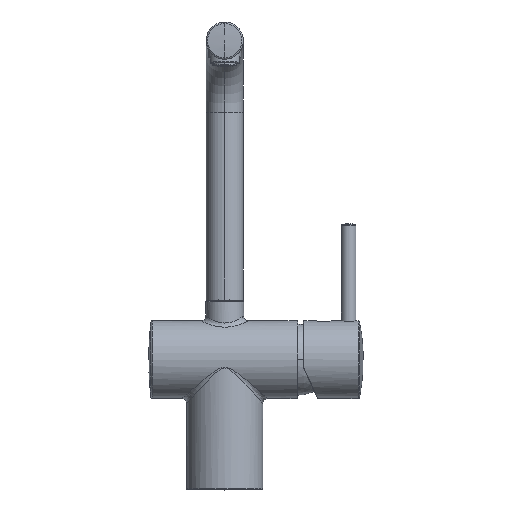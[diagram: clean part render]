
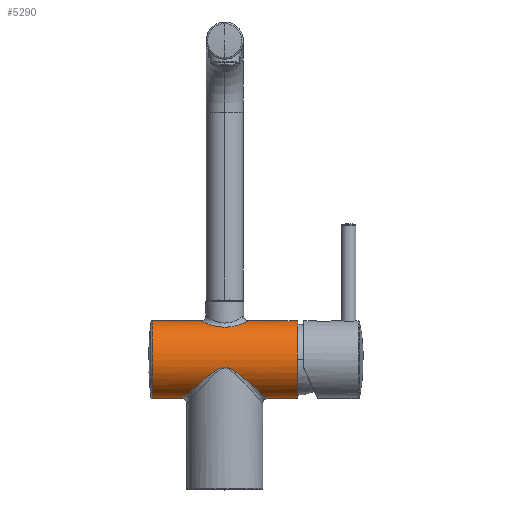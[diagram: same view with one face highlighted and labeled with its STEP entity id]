
A CAD part, top view. The second image highlights one B-rep face of the part: STEP entity #5290.
In plain terms, the highlighted cylindrical face has radius 24 mm (diameter 48 mm), a partial arc.
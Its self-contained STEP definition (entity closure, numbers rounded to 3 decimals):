
#144=DIRECTION('',(-1.,0.,0.));
#145=VECTOR('',#144,30.);
#146=CARTESIAN_POINT('',(44.7,104.,0.));
#147=LINE('',#146,#145);
#148=CARTESIAN_POINT('',(-14.7,104.,0.));
#168=CARTESIAN_POINT('',(14.7,104.,0.));
#170=DIRECTION('',(-1.,0.,0.));
#171=VECTOR('',#170,29.966);
#172=CARTESIAN_POINT('',(-14.7,104.,0.));
#173=LINE('',#172,#171);
#179=DIRECTION('',(-1.,0.,0.));
#180=VECTOR('',#179,18.166);
#181=CARTESIAN_POINT('',(-26.5,56.,0.));
#182=LINE('',#181,#180);
#183=CARTESIAN_POINT('',(26.5,56.,0.));
#230=CARTESIAN_POINT('',(-26.5,56.,0.));
#232=DIRECTION('',(-1.,0.,0.));
#233=VECTOR('',#232,18.2);
#234=CARTESIAN_POINT('',(44.7,56.,0.));
#235=LINE('',#234,#233);
#246=CARTESIAN_POINT('',(44.7,80.,0.));
#247=DIRECTION('',(-1.,0.,0.));
#248=DIRECTION('',(0.,-1.,0.));
#249=AXIS2_PLACEMENT_3D('',#246,#247,#248);
#251=CARTESIAN_POINT('',(-26.5,56.,0.));
#252=CARTESIAN_POINT('',(-26.5,56.,0.964));
#253=CARTESIAN_POINT('',(-26.368,56.115,2.918));
#254=CARTESIAN_POINT('',(-25.729,56.673,5.918));
#255=CARTESIAN_POINT('',(-24.644,57.617,8.827));
#256=CARTESIAN_POINT('',(-23.284,58.799,11.346));
#257=CARTESIAN_POINT('',(-21.862,60.031,13.374));
#258=CARTESIAN_POINT('',(-20.41,61.285,15.071));
#259=CARTESIAN_POINT('',(-18.878,62.602,16.57));
#260=CARTESIAN_POINT('',(-17.311,63.942,17.865));
#261=CARTESIAN_POINT('',(-15.795,65.228,18.937));
#262=CARTESIAN_POINT('',(-14.366,66.43,19.811));
#263=CARTESIAN_POINT('',(-13.059,67.517,20.51));
#264=CARTESIAN_POINT('',(-11.889,68.477,21.061));
#265=CARTESIAN_POINT('',(-10.825,69.338,21.508));
#266=CARTESIAN_POINT('',(-9.814,70.142,21.888));
#267=CARTESIAN_POINT('',(-8.801,70.93,22.226));
#268=CARTESIAN_POINT('',(-7.754,71.72,22.532));
#269=CARTESIAN_POINT('',(-6.677,72.501,22.803));
#270=CARTESIAN_POINT('',(-5.575,73.251,23.036));
#271=CARTESIAN_POINT('',(-4.449,73.952,23.229));
#272=CARTESIAN_POINT('',(-3.265,74.589,23.385));
#273=CARTESIAN_POINT('',(-2.027,75.098,23.495));
#274=CARTESIAN_POINT('',(-0.806,75.387,23.553));
#275=CARTESIAN_POINT('',(0.366,75.431,23.561));
#276=CARTESIAN_POINT('',(1.58,75.232,23.522));
#277=CARTESIAN_POINT('',(2.828,74.789,23.43));
#278=CARTESIAN_POINT('',(4.016,74.198,23.291));
#279=CARTESIAN_POINT('',(5.183,73.505,23.109));
#280=CARTESIAN_POINT('',(6.318,72.751,22.884));
#281=CARTESIAN_POINT('',(7.416,71.969,22.622));
#282=CARTESIAN_POINT('',(8.47,71.182,22.327));
#283=CARTESIAN_POINT('',(9.497,70.391,21.998));
#284=CARTESIAN_POINT('',(10.544,69.563,21.619));
#285=CARTESIAN_POINT('',(11.672,68.655,21.159));
#286=CARTESIAN_POINT('',(12.926,67.627,20.578));
#287=CARTESIAN_POINT('',(14.299,66.486,19.851));
#288=CARTESIAN_POINT('',(15.757,65.261,18.963));
#289=CARTESIAN_POINT('',(17.277,63.971,17.891));
#290=CARTESIAN_POINT('',(18.77,62.695,16.661));
#291=CARTESIAN_POINT('',(20.196,61.469,15.292));
#292=CARTESIAN_POINT('',(21.617,60.243,13.682));
#293=CARTESIAN_POINT('',(22.985,59.059,11.796));
#294=CARTESIAN_POINT('',(24.117,58.075,9.839));
#295=CARTESIAN_POINT('',(25.028,57.283,7.851));
#296=CARTESIAN_POINT('',(25.818,56.595,5.516));
#297=CARTESIAN_POINT('',(26.366,56.117,2.86));
#298=CARTESIAN_POINT('',(26.5,56.,0.973));
#299=CARTESIAN_POINT('',(26.5,56.,0.));
#301=CARTESIAN_POINT('',(-44.666,80.,0.));
#302=DIRECTION('',(-1.,0.,0.));
#303=DIRECTION('',(0.,-1.,0.));
#304=AXIS2_PLACEMENT_3D('',#301,#302,#303);
#306=CARTESIAN_POINT('',(14.7,104.,0.));
#307=CARTESIAN_POINT('',(14.7,104.,0.704));
#308=CARTESIAN_POINT('',(14.572,103.938,2.121));
#309=CARTESIAN_POINT('',(13.975,103.653,4.256));
#310=CARTESIAN_POINT('',(12.923,103.171,6.378));
#311=CARTESIAN_POINT('',(11.375,102.513,8.401));
#312=CARTESIAN_POINT('',(9.375,101.763,10.166));
#313=CARTESIAN_POINT('',(7.106,101.068,11.519));
#314=CARTESIAN_POINT('',(4.766,100.539,12.425));
#315=CARTESIAN_POINT('',(2.435,100.212,12.943));
#316=CARTESIAN_POINT('',(0.091,100.094,13.123));
#317=CARTESIAN_POINT('',(-2.324,100.197,12.966));
#318=CARTESIAN_POINT('',(-4.848,100.547,12.413));
#319=CARTESIAN_POINT('',(-7.378,101.139,11.393));
#320=CARTESIAN_POINT('',(-9.66,101.864,9.951));
#321=CARTESIAN_POINT('',(-11.527,102.577,8.217));
#322=CARTESIAN_POINT('',(-12.923,103.172,6.357));
#323=CARTESIAN_POINT('',(-13.952,103.642,4.316));
#324=CARTESIAN_POINT('',(-14.57,103.937,2.148));
#325=CARTESIAN_POINT('',(-14.7,104.,0.717));
#326=CARTESIAN_POINT('',(-14.7,104.,0.));
#4673=VERTEX_POINT('',#183);
#4674=VERTEX_POINT('',#230);
#4677=VERTEX_POINT('',#148);
#4678=VERTEX_POINT('',#168);
#4683=CARTESIAN_POINT('',(-44.666,56.,0.));
#4684=CARTESIAN_POINT('',(-44.666,104.,0.));
#4685=VERTEX_POINT('',#4683);
#4686=VERTEX_POINT('',#4684);
#4723=CARTESIAN_POINT('',(44.7,104.,0.));
#4724=CARTESIAN_POINT('',(44.7,56.,0.));
#4725=VERTEX_POINT('',#4723);
#4726=VERTEX_POINT('',#4724);
#5273=CARTESIAN_POINT('',(-51.6,80.,0.));
#5274=DIRECTION('',(1.,0.,0.));
#5275=DIRECTION('',(0.,-1.,0.));
#5276=AXIS2_PLACEMENT_3D('',#5273,#5274,#5275);
#5277=CYLINDRICAL_SURFACE('',#5276,24.);
#5278=ORIENTED_EDGE('',*,*,#5264,.F.);
#5279=ORIENTED_EDGE('',*,*,#5239,.T.);
#5280=ORIENTED_EDGE('',*,*,#5005,.F.);
#5281=ORIENTED_EDGE('',*,*,#5236,.T.);
#5283=ORIENTED_EDGE('',*,*,#5282,.T.);
#5284=ORIENTED_EDGE('',*,*,#5232,.F.);
#5286=ORIENTED_EDGE('',*,*,#5285,.F.);
#5287=ORIENTED_EDGE('',*,*,#5228,.F.);
#5288=EDGE_LOOP('',(#5278,#5279,#5280,#5281,#5283,#5284,#5286,#5287));
#5289=FACE_OUTER_BOUND('',#5288,.F.);
#5290=ADVANCED_FACE('',(#5289),#5277,.T.);
#250=CIRCLE('',#249,24.);
#300=B_SPLINE_CURVE_WITH_KNOTS('',3,(#251,#252,#253,#254,#255,#256,#257,#258,
#259,#260,#261,#262,#263,#264,#265,#266,#267,#268,#269,#270,#271,#272,#273,#274,
#275,#276,#277,#278,#279,#280,#281,#282,#283,#284,#285,#286,#287,#288,#289,#290,
#291,#292,#293,#294,#295,#296,#297,#298,#299),.UNSPECIFIED.,.F.,.F.,(4,1,1,1,1,
1,1,1,1,1,1,1,1,1,1,1,1,1,1,1,1,1,1,1,1,1,1,1,1,1,1,1,1,1,1,1,1,1,1,1,1,1,1,1,1,
1,4),(0.,0.022,0.043,0.065,
0.087,0.109,0.13,0.152,
0.174,0.196,0.217,0.239,
0.261,0.283,0.304,0.326,
0.348,0.37,0.391,0.413,
0.435,0.457,0.478,0.5,0.522,
0.543,0.565,0.587,0.609,
0.63,0.652,0.674,0.696,
0.717,0.739,0.761,0.783,
0.804,0.826,0.848,0.87,
0.891,0.913,0.935,0.957,
0.978,1.),.UNSPECIFIED.);
#305=CIRCLE('',#304,24.);
#327=B_SPLINE_CURVE_WITH_KNOTS('',3,(#306,#307,#308,#309,#310,#311,#312,#313,
#314,#315,#316,#317,#318,#319,#320,#321,#322,#323,#324,#325,#326),.UNSPECIFIED.,
.F.,.F.,(4,1,1,1,1,1,1,1,1,1,1,1,1,1,1,1,1,1,4),(0.,0.056,
0.111,0.167,0.222,0.278,
0.333,0.389,0.444,0.5,0.556,
0.611,0.667,0.722,0.778,
0.833,0.889,0.944,1.),.UNSPECIFIED.);
#5005=EDGE_CURVE('',#4674,#4673,#300,.T.);
#5228=EDGE_CURVE('',#4725,#4678,#147,.T.);
#5232=EDGE_CURVE('',#4677,#4686,#173,.T.);
#5236=EDGE_CURVE('',#4674,#4685,#182,.T.);
#5239=EDGE_CURVE('',#4726,#4673,#235,.T.);
#5264=EDGE_CURVE('',#4726,#4725,#250,.T.);
#5282=EDGE_CURVE('',#4685,#4686,#305,.T.);
#5285=EDGE_CURVE('',#4678,#4677,#327,.T.);
